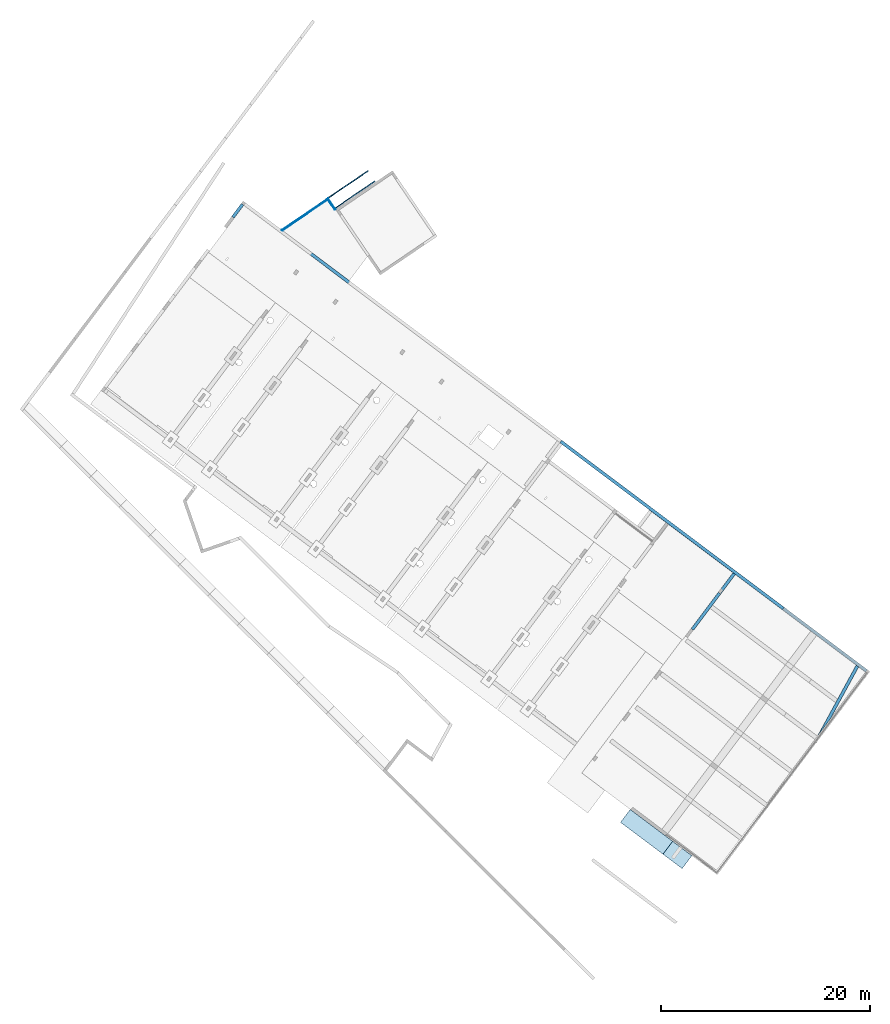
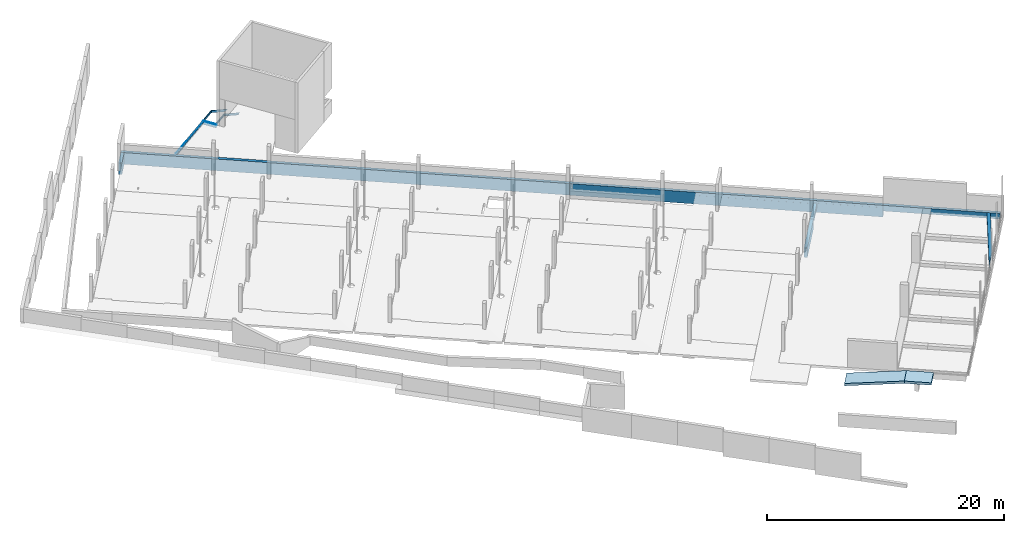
# One storey, part 19 of 24: 17 beams, 2 slabs, 1 element without a shape of its own.
"""IFC2X3 building model written with IfcOpenShell, lengths in metres."""

from ifc_helpers import new_model, entity, si_unit, converted_unit, derived_unit, direction, frame, frame_2d, origin, origin_2d_with_axis, place, context, subcontext, project, spatial, polyline, circle_curve, parameter, trimmed, segment, composite_curve, rectangle, outline, extrude, clip, halfspace, faceted_brep, material, layer, layer_set, type_object, element, aggregate, save


model = new_model("IFC2X3")

# Units and contexts
model_context = context("Model", 3, precision=1e-05, world=origin(), true_north=direction((6.123031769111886e-17, 1.0)))
body_context = subcontext(model_context, "Body", "Model", "MODEL_VIEW")
ifc_project = project(units=[si_unit("LENGTHUNIT", "METRE"), si_unit("AREAUNIT", "SQUARE_METRE"), si_unit("VOLUMEUNIT", "CUBIC_METRE"), converted_unit("PLANEANGLEUNIT", "DEGREE", entity("IfcRatioMeasure", 0.017453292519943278), si_unit("PLANEANGLEUNIT", "RADIAN"), dimensions=[0, 0, 0, 0, 0, 0, 0]), si_unit("MASSUNIT", "GRAM", prefix="KILO"), derived_unit("MASSDENSITYUNIT", [(si_unit("MASSUNIT", "GRAM", prefix="KILO"), 1), (si_unit("LENGTHUNIT", "METRE"), -3)]), derived_unit("IONCONCENTRATIONUNIT", [(si_unit("MASSUNIT", "GRAM", prefix="KILO"), 1), (si_unit("LENGTHUNIT", "METRE"), -3)]), derived_unit("MOMENTOFINERTIAUNIT", [(si_unit("LENGTHUNIT", "METRE"), 4)]), si_unit("TIMEUNIT", "SECOND"), si_unit("FREQUENCYUNIT", "HERTZ"), si_unit("THERMODYNAMICTEMPERATUREUNIT", "DEGREE_CELSIUS"), derived_unit("THERMALTRANSMITTANCEUNIT", [(si_unit("MASSUNIT", "GRAM", prefix="KILO"), 1), (si_unit("THERMODYNAMICTEMPERATUREUNIT", "KELVIN"), -1), (si_unit("TIMEUNIT", "SECOND"), -3)]), derived_unit("THERMALCONDUCTANCEUNIT", [(si_unit("MASSUNIT", "GRAM", prefix="KILO"), 1), (si_unit("THERMODYNAMICTEMPERATUREUNIT", "KELVIN"), -1), (si_unit("TIMEUNIT", "SECOND"), -3), (si_unit("LENGTHUNIT", "METRE"), 1)]), derived_unit("VOLUMETRICFLOWRATEUNIT", [(si_unit("LENGTHUNIT", "METRE"), 3), (si_unit("TIMEUNIT", "SECOND"), -1)]), derived_unit("MASSFLOWRATEUNIT", [(si_unit("MASSUNIT", "GRAM", prefix="KILO"), 1), (si_unit("TIMEUNIT", "SECOND"), -1)]), derived_unit("ROTATIONALFREQUENCYUNIT", [(si_unit("TIMEUNIT", "SECOND"), -1)]), si_unit("ELECTRICCURRENTUNIT", "AMPERE"), si_unit("ELECTRICVOLTAGEUNIT", "VOLT"), si_unit("POWERUNIT", "WATT"), si_unit("FORCEUNIT", "NEWTON", prefix="KILO"), si_unit("ILLUMINANCEUNIT", "LUX"), si_unit("LUMINOUSFLUXUNIT", "LUMEN"), si_unit("LUMINOUSINTENSITYUNIT", "CANDELA"), derived_unit("USERDEFINED", [(si_unit("MASSUNIT", "GRAM", prefix="KILO"), -1), (si_unit("LENGTHUNIT", "METRE"), -2), (si_unit("TIMEUNIT", "SECOND"), 3), (si_unit("LUMINOUSFLUXUNIT", "LUMEN"), 1)]), derived_unit("USERDEFINED", [(si_unit("MASSUNIT", "GRAM", prefix="KILO"), 1), (si_unit("TIMEUNIT", "SECOND"), -3), (si_unit("LENGTHUNIT", "METRE"), 3), (si_unit("ELECTRICCURRENTUNIT", "AMPERE"), -2)]), derived_unit("SOUNDPOWERUNIT", [(si_unit("MASSUNIT", "GRAM", prefix="KILO"), 1), (si_unit("TIMEUNIT", "SECOND"), -3), (si_unit("LENGTHUNIT", "METRE"), 2)]), derived_unit("SOUNDPRESSUREUNIT", [(si_unit("MASSUNIT", "GRAM", prefix="KILO"), 1), (si_unit("LENGTHUNIT", "METRE"), -1), (si_unit("TIMEUNIT", "SECOND"), -2)]), derived_unit("LINEARVELOCITYUNIT", [(si_unit("LENGTHUNIT", "METRE"), 1), (si_unit("TIMEUNIT", "SECOND"), -1)]), si_unit("PRESSUREUNIT", "PASCAL"), derived_unit("USERDEFINED", [(si_unit("MASSUNIT", "GRAM", prefix="KILO"), 1), (si_unit("LENGTHUNIT", "METRE"), -2), (si_unit("TIMEUNIT", "SECOND"), -2)]), derived_unit("LINEARFORCEUNIT", [(si_unit("MASSUNIT", "GRAM", prefix="KILO"), 1), (si_unit("TIMEUNIT", "SECOND"), -2)]), derived_unit("PLANARFORCEUNIT", [(si_unit("MASSUNIT", "GRAM", prefix="KILO"), 1), (si_unit("LENGTHUNIT", "METRE"), -1), (si_unit("TIMEUNIT", "SECOND"), -2)]), derived_unit("SPECIFICHEATCAPACITYUNIT", [(si_unit("THERMODYNAMICTEMPERATUREUNIT", "KELVIN"), -1), (si_unit("LENGTHUNIT", "METRE"), 2), (si_unit("TIMEUNIT", "SECOND"), -2)]), derived_unit("HEATINGVALUEUNIT", [(si_unit("LENGTHUNIT", "METRE"), 2), (si_unit("TIMEUNIT", "SECOND"), -2)]), derived_unit("VAPORPERMEABILITYUNIT", [(si_unit("LENGTHUNIT", "METRE"), -1), (si_unit("TIMEUNIT", "SECOND"), 1)]), derived_unit("DYNAMICVISCOSITYUNIT", [(si_unit("MASSUNIT", "GRAM", prefix="KILO"), 1), (si_unit("TIMEUNIT", "SECOND"), -1), (si_unit("LENGTHUNIT", "METRE"), -1)]), derived_unit("THERMALEXPANSIONCOEFFICIENTUNIT", [(si_unit("THERMODYNAMICTEMPERATUREUNIT", "KELVIN"), -1)]), derived_unit("MODULUSOFELASTICITYUNIT", [(si_unit("MASSUNIT", "GRAM", prefix="KILO"), 1), (si_unit("LENGTHUNIT", "METRE"), -1), (si_unit("TIMEUNIT", "SECOND"), -2)]), derived_unit("ISOTHERMALMOISTURECAPACITYUNIT", [(si_unit("LENGTHUNIT", "METRE"), 3), (si_unit("MASSUNIT", "GRAM", prefix="KILO"), -1)]), derived_unit("MOISTUREDIFFUSIVITYUNIT", [(si_unit("TIMEUNIT", "SECOND"), -1), (si_unit("LENGTHUNIT", "METRE"), 2)])], contexts=[model_context])

# Site, building, storey
site_placement = place(None, origin())
site = spatial("IfcSite", under=ifc_project, at=site_placement, Name="Default", CompositionType="ELEMENT")
building_placement = place(site_placement, frame((0.0, 0.0, 235.0), z_axis=(0.0, 0.0, 1.0), x_axis=(-0.7996477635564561, 0.6004693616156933, 0.0)))
building = spatial("IfcBuilding", under=site, at=building_placement, CompositionType="ELEMENT")
storey_placement = place(building_placement, origin())
storey = spatial("IfcBuildingStorey", under=building, at=storey_placement, Name="P0- Escola", CompositionType="ELEMENT", Elevation=0.0)

# Beams
ifc_material_1 = material(Name="_Formigó- T1- STR")
beam_type_1 = type_object("IfcBeamType", Name="STR- V- Formigó- Rectangular- T1:30x120 cm", PredefinedType="NOTDEFINED")
beam_1_placement = place(storey_placement, frame((36.65996019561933, -42.340191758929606, -1.4000000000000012), z_axis=(0.0, 0.0, 1.0), x_axis=(-1.0, 0.0, 0.0)))
element("IfcBeam", 1, at=beam_1_placement, inside=storey, type_object=beam_type_1, material=ifc_material_1, Name="STR- V- Formigó- Rectangular- T1:30x120 cm", ObjectType="STR- V- Formigó- Rectangular- T1:30x120 cm", context=body_context, shape_type="Brep", body=[
    faceted_brep([(0.0, -0.3000000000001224, 1.1999999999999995), (0.0, 0.0, 1.1999999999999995), (-25.390504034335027, 0.0, 1.1999999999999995), (-25.39050403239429, -0.0002190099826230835, 1.1999999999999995), (-33.45885326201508, -0.00021900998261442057, 1.1999999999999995), (-33.45877822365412, 0.0, 1.1999999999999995), (-37.785187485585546, 0.0, 1.1999999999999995), (-38.08518748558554, 0.0, 1.1999999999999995), (-38.08518748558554, -0.3000000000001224, 1.1999999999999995), (-37.78518748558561, -0.3000000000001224, 1.1999999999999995), (0.0, -0.3000000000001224, 0.0), (0.0, -0.3000000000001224, 0.4999999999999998), (0.0, -0.3000000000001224, 0.8800000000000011), (-38.08518748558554, -0.3000000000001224, 0.0), (-37.785187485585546, -0.3000000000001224, 0.0), (0.0, 0.0, 0.0), (-38.08518748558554, 0.0, 0.0), (-33.45877822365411, 0.0, 0.8800000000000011), (-25.390504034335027, 0.0, 0.8800000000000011), (-33.45885326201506, -0.0002190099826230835, 0.8800000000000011), (-25.39050403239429, -0.0002190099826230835, 0.8800000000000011)], [[[0, 1, 2, 3, 4, 5, 6, 7, 8, 9]], [[10, 11, 12, 0, 9, 8, 13, 14]], [[15, 10, 14, 13, 16]], [[1, 15, 16, 7, 6, 5, 17, 18, 2]], [[1, 0, 12, 11, 10, 15]], [[19, 20, 18, 17]], [[20, 3, 2, 18]], [[20, 19, 4, 3]], [[4, 19, 17, 5]], [[8, 7, 16, 13]]]),
])
beam_2_placement = place(storey_placement, frame((15.645147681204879, -39.69519881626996, -1.4000000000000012), z_axis=(0.0, 0.0, 1.0), x_axis=(0.0, -1.0, 0.0)))
element("IfcBeam", 2, at=beam_2_placement, inside=storey, type_object=beam_type_1, material=ifc_material_1, Name="STR- V- Formigó- Rectangular- T1:30x120 cm", ObjectType="STR- V- Formigó- Rectangular- T1:30x120 cm", context=body_context, shape_type="Brep", body=[
    faceted_brep([(0.0, 0.0, 0.9600000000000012), (-1.3050070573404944, 0.0, 0.9600000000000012), (-1.7050070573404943, 0.0, 0.9600000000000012), (-4.320000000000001, 0.0, 0.9600000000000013), (-4.320000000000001, 0.0, 0.0), (-1.7050070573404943, 0.0, 0.0), (-1.3050070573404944, 0.0, 0.0), (-0.00500705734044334, 0.0, 0.0), (-0.005007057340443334, 0.0, 0.8800000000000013), (0.0, 0.0, 0.8800000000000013), (-4.320000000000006, 0.300000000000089, 0.0), (-0.0050070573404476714, 0.300000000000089, 0.0), (-4.320000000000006, 0.300000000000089, 0.9600000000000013), (0.0, 0.300000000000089, 0.9600000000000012), (0.0, 0.300000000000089, 0.8800000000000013), (-0.005007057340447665, 0.300000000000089, 0.8800000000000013)], [[[0, 1, 2, 3, 4, 5, 6, 7, 8, 9]], [[4, 10, 11, 7, 6, 5]], [[12, 13, 14, 15, 11, 10]], [[3, 2, 1, 0, 13, 12]], [[15, 8, 7, 11]], [[8, 15, 14, 9]], [[10, 4, 3, 12]], [[13, 0, 9, 14]]]),
])
beam_3_placement = place(storey_placement, frame((10.045147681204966, -42.334191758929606, -1.4000000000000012), z_axis=(0.0, 0.0, 1.0), x_axis=(-1.0, 0.0, 0.0)))
element("IfcBeam", 3, at=beam_3_placement, inside=storey, type_object=beam_type_1, material=ifc_material_1, Name="STR- V- Formigó- Rectangular- T1:30x120 cm", ObjectType="STR- V- Formigó- Rectangular- T1:30x120 cm", context=body_context, shape_type="Brep", body=[
    faceted_brep([(0.0, 0.0, 1.1999999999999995), (-26.600000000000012, 0.0, 1.1999999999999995), (-26.600000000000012, -0.3000000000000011, 1.1999999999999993), (-26.300000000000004, -0.3000000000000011, 1.1999999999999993), (-15.899999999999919, -0.3000000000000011, 1.1999999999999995), (-15.899999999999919, -0.29400000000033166, 1.1999999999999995), (-5.899999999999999, -0.2940000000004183, 1.1999999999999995), (0.0, -0.2940000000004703, 1.1999999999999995), (-26.600000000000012, -0.3000000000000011, 0.0), (0.0, -0.3000000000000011, 0.0), (0.0, -0.3000000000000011, 0.9600000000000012), (-5.599999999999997, -0.3000000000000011, 0.9600000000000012), (-5.899999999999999, -0.3000000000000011, 0.9600000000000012), (-5.899999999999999, -0.3000000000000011, 0.8800000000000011), (-13.600000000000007, -0.3000000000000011, 0.8800000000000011), (-13.90000000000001, -0.3000000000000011, 0.8800000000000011), (-15.600000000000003, -0.29999999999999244, 0.8800000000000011), (-15.899999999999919, -0.3000000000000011, 0.8800000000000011), (-26.600000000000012, -0.3000000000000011, 0.4999999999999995), (-26.600000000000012, 0.0, 0.0), (0.0, 0.0, 0.0), (-5.899999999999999, -0.2940000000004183, 0.8800000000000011), (-15.899999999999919, -0.29400000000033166, 0.8800000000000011), (-5.899999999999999, -0.2940000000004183, 0.9600000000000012), (0.0, -0.2940000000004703, 0.9600000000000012)], [[[0, 1, 2, 3, 4, 5, 6, 7]], [[8, 9, 10, 11, 12, 13, 14, 15, 16, 17, 4, 3, 2, 18]], [[9, 8, 19, 20]], [[1, 0, 20, 19]], [[21, 22, 17, 16, 15, 14, 13]], [[21, 13, 12, 23]], [[22, 5, 4, 17]], [[22, 21, 23, 24, 7, 6, 5]], [[2, 1, 19, 8, 18]], [[24, 23, 12, 11, 10]], [[9, 20, 0, 7, 24, 10]]]),
])
beam_4_placement = place(storey_placement, frame((74.59514768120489, -42.19019175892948, -0.2), z_axis=(0.0, 0.0, 1.0), x_axis=(0.0, 1.0, 0.0)))
element("IfcBeam", 4, at=beam_4_placement, inside=storey, type_object=beam_type_1, material=ifc_material_1, Name="STR- V- Formigó- Rectangular- T1:30x120 cm", ObjectType="STR- V- Formigó- Rectangular- T1:30x120 cm", context=body_context, shape_type="SweptSolid", body=[
    extrude(rectangle(XDim=1.1999999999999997, YDim=0.3000000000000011, at=frame_2d((2.7755575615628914e-16, 0.0), x_axis=(1.0, 0.0))), frame((0.15000000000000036, 0.0, -0.6000000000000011), z_axis=(1.0, 0.0, 0.0), x_axis=(0.0, 0.0, -1.0)), (0.0, 0.0, 1.0), 1.5298499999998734),
])
beam_type_2 = type_object("IfcBeamType", Name="STR- V- Formigó- Rectangular- T1:30x59 cm", PredefinedType="NOTDEFINED")
beam_5_placement = place(storey_placement, frame((1.0942481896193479, -42.190191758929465, -0.2), z_axis=(0.0, 0.0, 1.0), x_axis=(-0.14461846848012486, 0.9894874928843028, 0.0)))
element("IfcBeam", 5, at=beam_5_placement, inside=storey, type_object=beam_type_2, material=ifc_material_1, Name="STR- V- Formigó- Rectangular- T1:30x59 cm", ObjectType="STR- V- Formigó- Rectangular- T1:30x59 cm", context=body_context, shape_type="SweptSolid", body=[
    clip(clip(extrude(rectangle(XDim=0.3499999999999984, YDim=0.30000000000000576, at=frame_2d((-1.3877787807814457e-17, 1.3877787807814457e-16), x_axis=(1.0, 0.0))), frame((0.1296703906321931, 0.0, -0.175000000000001), z_axis=(1.0, 0.0, 0.0), x_axis=(0.0, 0.0, -1.0)), (0.0, 0.0, 1.0), 7.73127508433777), halfspace(frame((23.692746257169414, -2.4638956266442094, 0.0), z_axis=(0.14461846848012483, 0.9894874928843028, 0.0), x_axis=(-0.9894874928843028, 0.14461846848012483, 0.0)), False)), halfspace(frame((-1.1460195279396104, -8.878340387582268, -0.590000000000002), z_axis=(-0.9894874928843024, 0.14461846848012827, 0.0), x_axis=(0.14461846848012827, 0.9894874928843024, 0.0)), False)),
])
beam_6_placement = place(storey_placement, frame((-0.04416658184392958, -42.190191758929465, -0.2)))
element("IfcBeam", 6, at=beam_6_placement, inside=storey, type_object=beam_type_2, material=ifc_material_1, Name="STR- V- Formigó- Rectangular- T1:30x59 cm", ObjectType="STR- V- Formigó- Rectangular- T1:30x59 cm", context=body_context, shape_type="SweptSolid", body=[
    extrude(rectangle(XDim=0.5899999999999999, YDim=0.3000000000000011, at=frame_2d((5.551115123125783e-17, 3.46528361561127e-14), x_axis=(1.0, 0.0))), frame((0.14999999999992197, 0.0, -0.29500000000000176), z_axis=(1.0, 0.0, 0.0), x_axis=(0.0, 0.0, -1.0)), (0.0, 0.0, 1.0), 9.939314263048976),
])
beam_type_3 = type_object("IfcBeamType", Name="STR- V- Formigó- Rectangular- T1:30x70 cm", PredefinedType="BEAM", material=ifc_material_1)
beam_7_placement = place(storey_placement, frame((15.645147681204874, -42.03419175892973, -0.9000000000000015), z_axis=(0.0, 0.0, 1.0), x_axis=(0.0, -1.0, 0.0)))
element("IfcBeam", 7, at=beam_7_placement, inside=storey, type_object=beam_type_3, material=ifc_material_1, Name="STR- V- Formigó- Rectangular- T1:30x70 cm", ObjectType="STR- V- Formigó- Rectangular- T1:30x70 cm", context=body_context, shape_type="Brep", body=[
    faceted_brep([(-1.8940000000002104, 0.0, 0.3800000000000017), (-1.8940000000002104, 0.0, 0.0), (0.0, 0.0, 0.0), (0.0, 0.0, 0.4600000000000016), (-2.3389929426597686, 0.0, 0.4600000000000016), (-2.3389929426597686, 0.0, 0.3800000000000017), (-1.8940000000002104, 0.3000000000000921, 0.0), (0.0, 0.3000000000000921, 0.0), (-1.8940000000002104, 0.3000000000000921, 0.3800000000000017), (-2.3389929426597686, 0.3000000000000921, 0.3800000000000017), (-2.3389929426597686, 0.3000000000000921, 0.4600000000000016), (0.0, 0.3000000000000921, 0.4600000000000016), (0.0, 0.3000000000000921, 0.38000000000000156)], [[[0, 1, 2, 3, 4, 5]], [[1, 6, 7, 2]], [[6, 8, 9, 10, 11, 12, 7]], [[10, 4, 3, 11]], [[0, 8, 6, 1]], [[8, 0, 5, 9]], [[3, 2, 7, 12, 11]], [[4, 10, 9, 5]]]),
])
ifc_material_2 = material(Name="_Acer- STR")
beam_type_4 = type_object("IfcBeamType", Name="STR- V- Acer- FL - Platina- T1:FL 10x200", PredefinedType="NOTDEFINED")
beam_8_placement = place(storey_placement, frame((68.38475362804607, -47.40590542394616, -0.32), z_axis=(0.0, 0.0, 1.0), x_axis=(0.3241555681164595, 0.9460037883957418, 0.0)))
element("IfcBeam", 8, at=beam_8_placement, inside=storey, type_object=beam_type_4, material=ifc_material_2, Name="STR- V- Acer- FL - Platina- T1:FL 10x200", ObjectType="STR- V- Acer- FL - Platina- T1:FL 10x200", context=body_context, shape_type="SweptSolid", body=[
    clip(extrude(rectangle(XDim=0.199999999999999, YDim=0.01000000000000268, at=frame_2d((3.469446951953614e-17, 1.4038249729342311e-15), x_axis=(1.0, 0.0))), frame((0.0004008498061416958, -0.005000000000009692, -0.10000000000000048), z_axis=(1.0, 0.0, 0.0), x_axis=(0.0, 0.0, -1.0)), (0.0, 0.0, 1.0), 5.357881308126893), halfspace(frame((4.977080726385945, 1.102484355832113, 1.9200000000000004), z_axis=(0.9460037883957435, 0.3241555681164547, 0.0), x_axis=(-0.3241555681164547, 0.9460037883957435, 0.0)), False)),
])
beam_type_5 = type_object("IfcBeamType", Name="STR- V- Acer- FL - Platina- T1:FL 10x400", PredefinedType="NOTDEFINED")
beam_9_placement = place(storey_placement, frame((66.98023122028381, -46.919634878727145, -0.11999999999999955), z_axis=(0.0, 0.0, 1.0), x_axis=(0.9460037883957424, -0.32415556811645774, 0.0)))
element("IfcBeam", 9, at=beam_9_placement, inside=storey, type_object=beam_type_5, material=ifc_material_2, Name="STR- V- Acer- FL - Platina- T1:FL 10x400", ObjectType="STR- V- Acer- FL - Platina- T1:FL 10x400", context=body_context, shape_type="SweptSolid", body=[
    extrude(rectangle(XDim=0.3999999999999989, YDim=0.009999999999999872, at=frame_2d((4.163336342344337e-17, 0.0), x_axis=(1.0, 0.0))), frame((0.23511975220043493, -0.004999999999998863, -0.20000000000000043), z_axis=(1.0, 0.0, 0.0), x_axis=(0.0, 0.0, -1.0)), (0.0, 0.0, 1.0), 1.2490356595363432),
])
beam_type_6 = type_object("IfcBeamType", Name="STR- V- Acer- UPE- T1:UPE 200", PredefinedType="NOTDEFINED")
beam_10_placement = place(storey_placement, frame((66.97471226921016, -51.51628483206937, -1.703999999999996), z_axis=(-0.16402745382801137, -0.47869173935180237, 0.862524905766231), x_axis=(0.27959225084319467, 0.8159518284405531, 0.5060146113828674)))
element("IfcBeam", 10, at=beam_10_placement, inside=storey, type_object=beam_type_6, material=ifc_material_2, Name="STR- V- Acer- UPE- T1:UPE 200", ObjectType="STR- V- Acer- UPE- T1:UPE 200", context=body_context, shape_type="SweptSolid", body=[
    clip(clip(extrude(outline(composite_curve([segment(polyline([(-0.04300000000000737, -0.08899999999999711), (-0.043000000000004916, -0.10000000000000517)]), True, "CONTINUOUS"), segment(polyline([(-0.043000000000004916, -0.10000000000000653), (0.03699999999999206, -0.09999999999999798)]), True, "CONTINUOUS"), segment(polyline([(0.03700000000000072, -0.09999999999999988), (0.03699999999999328, 0.0999999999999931)]), True, "CONTINUOUS"), segment(polyline([(0.03700000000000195, 0.09999999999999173), (-0.043000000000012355, 0.0999999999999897)]), True, "CONTINUOUS"), segment(polyline([(-0.043000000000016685, 0.10000000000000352), (-0.04300000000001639, 0.08899999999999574)]), True, "CONTINUOUS"), segment(polyline([(-0.04300000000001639, 0.08899999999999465), (0.0179999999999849, 0.08900000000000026)]), True, "CONTINUOUS"), segment(trimmed(circle_curve(frame_2d((0.01799999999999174, 0.0760000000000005), x_axis=(1.0, 0.0)), 0.012999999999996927), [parameter(0.0)], [parameter(90.00000000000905)], True, "PARAMETER"), False, "CONTINUOUS"), segment(polyline([(0.031000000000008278, 0.07600000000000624), (0.030999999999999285, -0.07599999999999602)]), True, "CONTINUOUS"), segment(trimmed(circle_curve(frame_2d((0.01800000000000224, -0.07600000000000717), x_axis=(0.0, -1.0)), 0.012999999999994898), [parameter(0.0)], [parameter(90.00000000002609)], True, "PARAMETER"), False, "CONTINUOUS"), segment(polyline([(0.018000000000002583, -0.08900000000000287), (-0.04299999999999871, -0.08899999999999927)]), True, "CONTINUOUS")], self_intersect=False)), frame((-0.3443332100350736, -0.03699999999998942, -0.10000000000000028), z_axis=(-1.0, 0.0, 0.0), x_axis=(0.0, 1.0, 0.0)), (0.0, 0.0, -1.0), 3.4746776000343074), halfspace(frame((0.16969890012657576, -2.204814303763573, -0.30360876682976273), z_axis=(-0.5060146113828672, 0.0, -0.8625249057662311), x_axis=(0.8625249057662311, 0.0, -0.5060146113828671)), False)), halfspace(frame((3.1303443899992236, 0.0, 0.0), z_axis=(0.9650194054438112, 0.0, -0.26217846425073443), x_axis=(-0.023458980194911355, -0.9959888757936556, -0.08634718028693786)), False)),
])
beam_11_placement = place(storey_placement, frame((67.8499323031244, -48.96207460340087, -0.1199999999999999), z_axis=(0.0, 0.0, 1.0), x_axis=(0.3241555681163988, 0.9460037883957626, 0.0)))
element("IfcBeam", 11, at=beam_11_placement, inside=storey, type_object=beam_type_6, material=ifc_material_2, Name="STR- V- Acer- UPE- T1:UPE 200", ObjectType="STR- V- Acer- UPE- T1:UPE 200", context=body_context, shape_type="SweptSolid", body=[
    clip(clip(extrude(outline(composite_curve([segment(polyline([(-0.09999999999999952, -0.043000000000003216), (-0.08900000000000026, -0.043000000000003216)]), True, "CONTINUOUS"), segment(polyline([(-0.08900000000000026, -0.043000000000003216), (-0.08900000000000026, 0.017999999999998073)]), True, "CONTINUOUS"), segment(trimmed(circle_curve(frame_2d((-0.07600000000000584, 0.017999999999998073), x_axis=(-1.0, 0.0)), 0.012999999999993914), [parameter(269.9999999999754)], [parameter(0.0)], True, "PARAMETER"), False, "CONTINUOUS"), segment(polyline([(-0.07600000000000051, 0.031000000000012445), (0.0759999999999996, 0.031000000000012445)]), True, "CONTINUOUS"), segment(trimmed(circle_curve(frame_2d((0.07600000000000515, 0.017999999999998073), x_axis=(0.0, 1.0)), 0.012999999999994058), [parameter(269.9999999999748)], [parameter(0.0)], True, "PARAMETER"), False, "CONTINUOUS"), segment(polyline([(0.08899999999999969, 0.017999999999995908), (0.08899999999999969, -0.043000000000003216)]), True, "CONTINUOUS"), segment(polyline([(0.08899999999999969, -0.043000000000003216), (0.10000000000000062, -0.043000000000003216)]), True, "CONTINUOUS"), segment(polyline([(0.10000000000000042, -0.043000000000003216), (0.10000000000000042, 0.03700000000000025)]), True, "CONTINUOUS"), segment(polyline([(0.10000000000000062, 0.03700000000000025), (-0.09999999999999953, 0.03700000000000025)]), True, "CONTINUOUS"), segment(polyline([(-0.09999999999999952, 0.03700000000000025), (-0.09999999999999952, -0.043000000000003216)]), True, "CONTINUOUS")], self_intersect=False)), frame((0.0, -0.03700000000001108, -0.10000000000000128), z_axis=(1.0, 0.0, 0.0), x_axis=(0.0, 0.0, -1.0)), (0.0, 0.0, 1.0), 7.027262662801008), halfspace(frame((0.0, 0.0, 0.0), z_axis=(-0.9650194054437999, 0.0, -0.2621784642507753), x_axis=(0.02345898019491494, -0.9959888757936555, -0.08634718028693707)), False)), halfspace(frame((6.4475456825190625, 1.6118248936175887, 5.120000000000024), z_axis=(0.9460037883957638, 0.3241555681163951, 0.0), x_axis=(-0.3241555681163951, 0.9460037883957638, 0.0)), False)),
])
beam_12_placement = place(storey_placement, frame((65.93410810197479, -51.159713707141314, -1.703999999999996), z_axis=(-0.16402745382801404, -0.4786917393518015, 0.862524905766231), x_axis=(0.2795922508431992, 0.8159518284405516, 0.5060146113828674)))
element("IfcBeam", 12, at=beam_12_placement, inside=storey, type_object=beam_type_6, material=ifc_material_2, Name="STR- V- Acer- UPE- T1:UPE 200", ObjectType="STR- V- Acer- UPE- T1:UPE 200", context=body_context, shape_type="SweptSolid", body=[
    clip(extrude(outline(composite_curve([segment(polyline([(-0.09999999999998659, -0.03699999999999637), (0.09999999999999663, -0.03699999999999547)]), True, "CONTINUOUS"), segment(polyline([(0.09999999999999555, -0.03699999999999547), (0.09999999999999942, 0.04300000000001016)]), True, "CONTINUOUS"), segment(polyline([(0.10000000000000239, 0.0430000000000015), (0.08899999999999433, 0.04300000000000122)]), True, "CONTINUOUS"), segment(polyline([(0.08900000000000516, 0.04300000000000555), (0.0890000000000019, -0.01799999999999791)]), True, "CONTINUOUS"), segment(trimmed(circle_curve(frame_2d((0.07600000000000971, -0.01800000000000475), x_axis=(1.0, 0.0)), 0.012999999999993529), [parameter(269.99999999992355)], [parameter(0.0)], True, "PARAMETER"), False, "CONTINUOUS"), segment(polyline([(0.07600000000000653, -0.031000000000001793), (-0.07599999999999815, -0.031000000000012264)]), True, "CONTINUOUS"), segment(trimmed(circle_curve(frame_2d((-0.07600000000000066, -0.017999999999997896), x_axis=(0.0, -1.0)), 0.01299999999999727), [parameter(269.999999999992)], [parameter(0.0)], True, "PARAMETER"), False, "CONTINUOUS"), segment(polyline([(-0.08900000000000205, -0.017999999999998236), (-0.08900000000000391, 0.043000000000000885)]), True, "CONTINUOUS"), segment(polyline([(-0.08899999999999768, 0.042999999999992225), (-0.099999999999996, 0.04299999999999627)]), True, "CONTINUOUS"), segment(polyline([(-0.09999999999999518, 0.04299999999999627), (-0.0999999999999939, -0.037000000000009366)]), True, "CONTINUOUS")], self_intersect=False)), frame((-0.3443332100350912, 0.03700000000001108, -0.0999999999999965), z_axis=(1.0, 0.0, 0.0), x_axis=(0.0, 0.0, -1.0)), (0.0, 0.0, 1.0), 3.4746776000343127), halfspace(frame((3.1303443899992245, 0.0, 0.0), z_axis=(0.9650194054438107, 0.0, -0.26217846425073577), x_axis=(-0.023458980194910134, -0.9959888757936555, -0.08634718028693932)), False)),
])
beam_13_placement = place(storey_placement, frame((66.80932813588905, -48.605503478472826, -0.1199999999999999), z_axis=(0.0, 0.0, 1.0), x_axis=(0.32415556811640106, 0.9460037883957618, 0.0)))
element("IfcBeam", 13, at=beam_13_placement, inside=storey, type_object=beam_type_6, material=ifc_material_2, Name="STR- V- Acer- UPE- T1:UPE 200", ObjectType="STR- V- Acer- UPE- T1:UPE 200", context=body_context, shape_type="SweptSolid", body=[
    clip(extrude(outline(composite_curve([segment(polyline([(-0.09999999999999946, -0.03699999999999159), (0.10000000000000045, -0.03699999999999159)]), True, "CONTINUOUS"), segment(polyline([(0.10000000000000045, -0.037000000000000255), (0.10000000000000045, 0.042999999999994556)]), True, "CONTINUOUS"), segment(polyline([(0.10000000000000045, 0.042999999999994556), (0.08899999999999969, 0.042999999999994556)]), True, "CONTINUOUS"), segment(polyline([(0.08899999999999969, 0.04300000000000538), (0.08899999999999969, -0.018000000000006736)]), True, "CONTINUOUS"), segment(trimmed(circle_curve(frame_2d((0.0760000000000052, -0.017999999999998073), x_axis=(1.0, 0.0)), 0.012999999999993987), [parameter(269.9999999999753)], [parameter(0.0)], True, "PARAMETER"), False, "CONTINUOUS"), segment(polyline([(0.07599999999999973, -0.03100000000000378), (-0.07600000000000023, -0.03100000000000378)]), True, "CONTINUOUS"), segment(trimmed(circle_curve(frame_2d((-0.07600000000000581, -0.017999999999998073), x_axis=(0.0, -1.0)), 0.012999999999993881), [parameter(269.9999999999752)], [parameter(0.0)], True, "PARAMETER"), False, "CONTINUOUS"), segment(polyline([(-0.08900000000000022, -0.018000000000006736), (-0.08900000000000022, 0.042999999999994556)]), True, "CONTINUOUS"), segment(polyline([(-0.0890000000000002, 0.042999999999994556), (-0.09999999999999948, 0.042999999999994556)]), True, "CONTINUOUS"), segment(polyline([(-0.09999999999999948, 0.04300000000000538), (-0.09999999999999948, -0.037000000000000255)]), True, "CONTINUOUS")], self_intersect=False)), frame((0.0, 0.037000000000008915, -0.10000000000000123), z_axis=(1.0, 0.0, 0.0), x_axis=(0.0, 0.0, -1.0)), (0.0, 0.0, 1.0), 1.639879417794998), halfspace(frame((0.0, 0.0, 0.0), z_axis=(-0.96501940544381, 0.0, -0.2621784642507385), x_axis=(0.02345898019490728, -0.9959888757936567, -0.08634718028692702)), False)),
])
beam_type_7 = type_object("IfcBeamType", Name="STR- V- Acer- FL - Platina- T1:FL 10x80", PredefinedType="NOTDEFINED")
beam_14_placement = place(storey_placement, frame((68.37540586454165, -47.397702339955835, -0.20000000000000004), z_axis=(0.0, 0.0, 1.0), x_axis=(0.32415556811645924, 0.946003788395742, 0.0)))
element("IfcBeam", 14, at=beam_14_placement, inside=storey, type_object=beam_type_7, material=ifc_material_2, Name="STR- V- Acer- FL - Platina- T1:FL 10x80", ObjectType="STR- V- Acer- FL - Platina- T1:FL 10x80", context=body_context, shape_type="SweptSolid", body=[
    clip(extrude(rectangle(XDim=0.07999999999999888, YDim=0.01000000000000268, at=frame_2d((2.42861286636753e-17, 1.4038249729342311e-15), x_axis=(1.0, 0.0))), frame((0.010322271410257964, -0.005000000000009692, 0.040000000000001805), z_axis=(1.0, 0.0, 0.0), x_axis=(0.0, 0.0, -1.0)), (0.0, 0.0, 1.0), 5.339288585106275), halfspace(frame((5.089046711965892, 0.7504208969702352, 1.8000000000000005), z_axis=(0.9460037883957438, 0.32415556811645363, 0.0), x_axis=(-0.32415556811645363, 0.9460037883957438, 0.0)), False)),
])
beam_15_placement = place(storey_placement, frame((68.57965751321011, -46.5548266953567, -0.19999999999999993), z_axis=(0.0, 0.0, 1.0), x_axis=(0.32415556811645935, 0.946003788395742, 0.0)))
element("IfcBeam", 15, at=beam_15_placement, inside=storey, type_object=beam_type_7, material=ifc_material_2, Name="STR- V- Acer- FL - Platina- T1:FL 10x80", ObjectType="STR- V- Acer- FL - Platina- T1:FL 10x80", context=body_context, shape_type="SweptSolid", body=[
    clip(extrude(rectangle(XDim=0.009999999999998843, YDim=0.07999999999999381, at=origin_2d_with_axis()), frame((-0.7735370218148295, -0.039999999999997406, 0.004999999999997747), z_axis=(1.0, 0.0, 0.0), x_axis=(0.0, 0.0, -1.0)), (0.0, 0.0, 1.0), 5.25614843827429), halfspace(frame((4.225473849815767, 0.6704208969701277, 1.8000000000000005), z_axis=(0.9460037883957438, 0.32415556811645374, 0.0), x_axis=(-0.32415556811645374, 0.9460037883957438, 0.0)), False)),
])
beam_16_placement = place(storey_placement, frame((67.20170826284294, -46.98495493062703, -0.20000000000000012), z_axis=(0.0, 0.0, 1.0), x_axis=(0.9460037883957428, -0.32415556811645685, 0.0)))
element("IfcBeam", 16, at=beam_16_placement, inside=storey, type_object=beam_type_7, material=ifc_material_2, Name="STR- V- Acer- FL - Platina- T1:FL 10x80", ObjectType="STR- V- Acer- FL - Platina- T1:FL 10x80", context=body_context, shape_type="SweptSolid", body=[
    extrude(rectangle(XDim=0.07999999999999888, YDim=0.009999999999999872, at=frame_2d((-1.0408340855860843e-17, 0.0), x_axis=(1.0, 0.0))), frame((0.004272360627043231, -0.005000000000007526, 0.040000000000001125), z_axis=(1.0, 0.0, 0.0), x_axis=(0.0, 0.0, -1.0)), (0.0, 0.0, 1.0), 1.2492269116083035),
])
beam_17_placement = place(storey_placement, frame((66.67416068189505, -46.719620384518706, -0.19999999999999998), z_axis=(0.0, 0.0, 1.0), x_axis=(0.9460037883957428, -0.32415556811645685, 0.0)))
element("IfcBeam", 17, at=beam_17_placement, inside=storey, type_object=beam_type_7, material=ifc_material_2, Name="STR- V- Acer- FL - Platina- T1:FL 10x80", ObjectType="STR- V- Acer- FL - Platina- T1:FL 10x80", context=body_context, shape_type="SweptSolid", body=[
    extrude(rectangle(XDim=0.009999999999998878, YDim=0.07999999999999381, at=origin_2d_with_axis()), frame((0.5893798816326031, -0.04000000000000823, 0.004999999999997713), z_axis=(1.0, 0.0, 0.0), x_axis=(0.0, 0.0, -1.0)), (0.0, 0.0, 1.0), 1.2397727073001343),
])

# Slabs
slab_1_placement = place(storey_placement, frame((2.844833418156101, -18.040191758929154, -1.0200000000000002)))
slab_1 = element("IfcSlab", 18, at=slab_1_placement, inside=storey, Name="Suelo:STR- L- Formigó- Llosa- T1- 24 cm", ObjectType="Suelo:STR- L- Formigó- Llosa- T1- 24 cm", PredefinedType="NOTDEFINED")
ifc_layer = layer(ifc_material_1, 0.24)
ifc_layer_set = layer_set([ifc_layer], Name="Suelo:STR- L- Formigó- Llosa- T1- 24 cm")
slab_type = type_object("IfcSlabType", Name="Suelo:STR- L- Formigó- Llosa- T1- 24 cm", PredefinedType="FLOOR", material=ifc_layer_set)
slab_2_placement = place(slab_1_placement, origin())
slab_2 = element("IfcSlab", 19, at=slab_2_placement, type_object=slab_type, material=ifc_layer_set, Name="Suelo:STR- L- Formigó- Llosa- T1- 24 cm", ObjectType="Suelo:STR- L- Formigó- Llosa- T1- 24 cm", PredefinedType="FLOOR", context=body_context, shape_type="SweptSolid", body=[
    extrude(rectangle(XDim=2.2950000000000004, YDim=1.5499999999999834, at=origin_2d_with_axis()), frame((1.1475000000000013, 0.7750000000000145, 0.922)), (0.0, 0.0, -1.0), 0.24),
])
slab_3_placement = place(slab_1_placement, origin())
slab_3 = element("IfcSlab", 20, at=slab_3_placement, type_object=slab_type, material=ifc_layer_set, Name="Suelo:STR- L- Formigó- Llosa- T1- 24 cm", ObjectType="Suelo:STR- L- Formigó- Llosa- T1- 24 cm", PredefinedType="FLOOR", context=body_context, shape_type="SweptSolid", body=[
    extrude(rectangle(XDim=5.121611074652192, YDim=1.5499999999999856, at=origin_2d_with_axis()), frame((4.833, 0.7750000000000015, 0.5810000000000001), z_axis=(0.13316122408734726, 0.0, 0.9910943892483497), x_axis=(0.9910943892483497, 0.0, -0.13316122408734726)), (0.13316122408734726, 0.0, -0.9910943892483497), 0.24),
])
aggregate(slab_1, [slab_2, slab_3])

save(model, "model.ifc")
